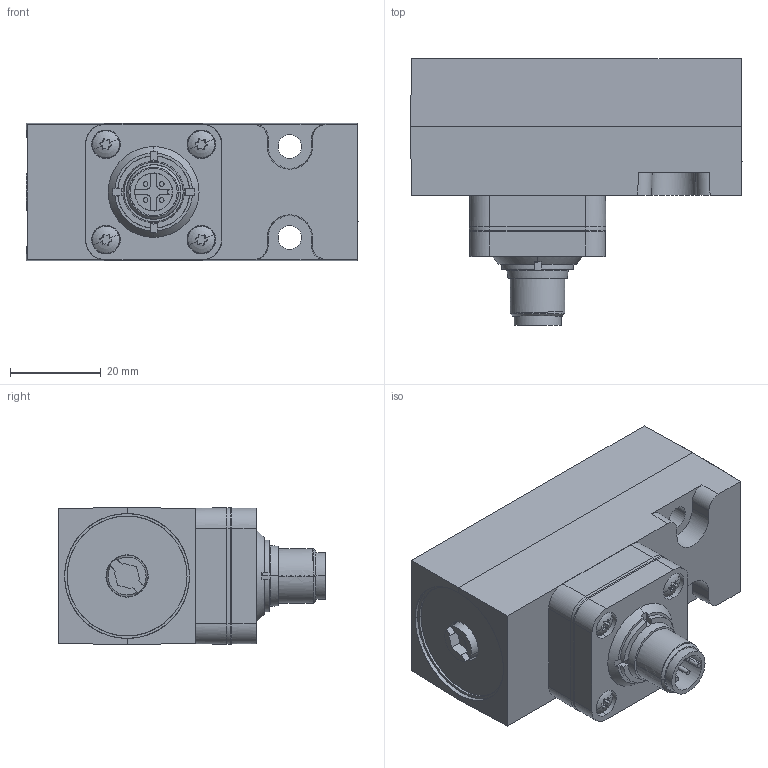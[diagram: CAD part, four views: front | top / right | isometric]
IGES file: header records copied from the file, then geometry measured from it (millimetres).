
Start section:  PTC IGES file: r412010716.igs
Global section: file name: r412010716.igs; native system: Creo Parametric by PTC Inc.; preprocessor: 2020044; author: PDH2HC; organization: Unknown; date: 20220428.132515; units: millimetre
Bounding box: 73.1 x 58.6 x 30.2 mm (x, y, z)
Surface area: 15242.5 mm2 (no closed solid volume)
Topology: 0 solids, 0 shells, 316 faces, 1806 edges, 1806 vertices
Faces by surface type: bspline 316
